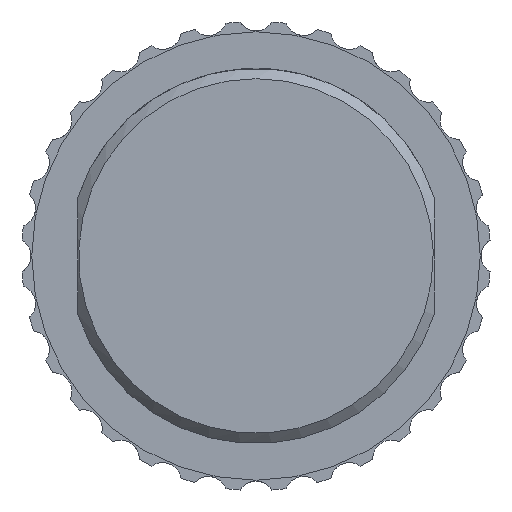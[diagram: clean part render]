
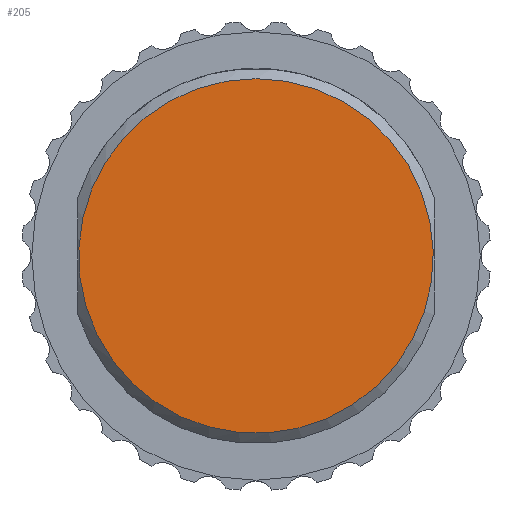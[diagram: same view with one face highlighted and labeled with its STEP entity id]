
A CAD part, left-side view. The second image highlights one B-rep face of the part: STEP entity #205.
In plain terms, the highlighted planar face has unit normal (-1, 0, 0).
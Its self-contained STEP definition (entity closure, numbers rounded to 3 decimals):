
#205 = ADVANCED_FACE( '', ( #434 ), #435, .T. );
#434 = FACE_OUTER_BOUND( '', #679, .T. );
#435 = PLANE( '', #680 );
#679 = EDGE_LOOP( '', ( #1289 ) );
#680 = AXIS2_PLACEMENT_3D( '', #1290, #1291, #1292 );
#1289 = ORIENTED_EDGE( '', *, *, #1694, .T. );
#1290 = CARTESIAN_POINT( '', ( -3.5, 0., 0. ) );
#1291 = DIRECTION( '', ( -1., 0., 0. ) );
#1292 = DIRECTION( '', ( 0., 0., 1. ) );
#1694 = EDGE_CURVE( '', #2122, #2122, #2123, .T. );
#2122 = VERTEX_POINT( '', #3155 );
#2123 = CIRCLE( '', #3156, 9.45 );
#3155 = CARTESIAN_POINT( '', ( -3.5, 0., 9.45 ) );
#3156 = AXIS2_PLACEMENT_3D( '', #3633, #3634, #3635 );
#3633 = CARTESIAN_POINT( '', ( -3.5, 0., 0. ) );
#3634 = DIRECTION( '', ( -1., 0., 0. ) );
#3635 = DIRECTION( '', ( 0., 0., 1. ) );
